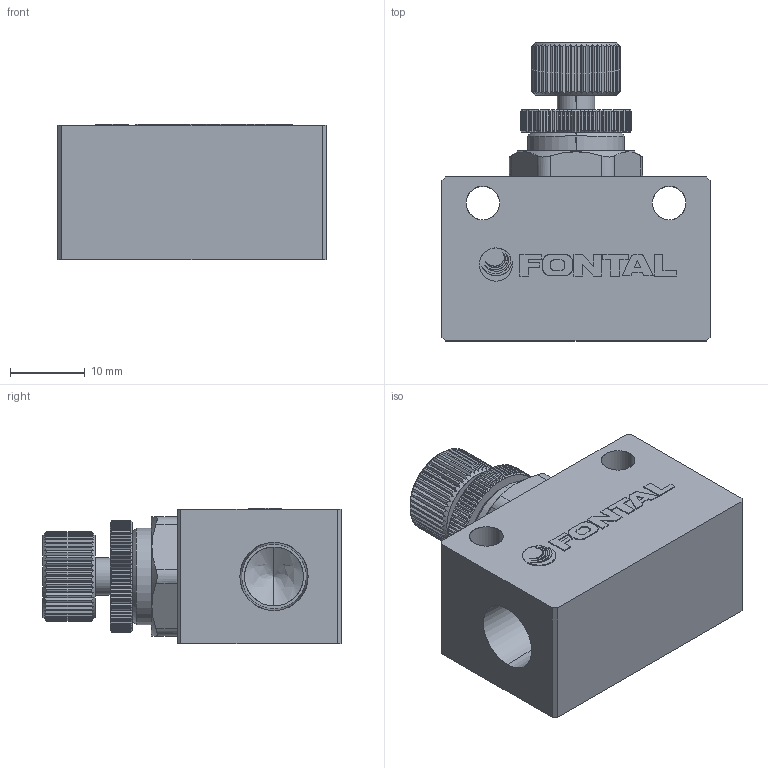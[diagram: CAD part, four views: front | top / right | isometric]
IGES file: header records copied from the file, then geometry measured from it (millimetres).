
Start section: SolidWorks IGES file using analytic representation for surfaces
Global section: file name: D:\Custom\3D繪製\Z-H\2H\SP-2H-1.IGS,1; native system: 5HSolidWorks 2014; preprocessor: SolidWorks 2014; author: Chieh_Lu; date: 160115.031941; units: millimetre
Bounding box: 36 x 40 x 18.12 mm (x, y, z)
Surface area: 6971.4 mm2 (no closed solid volume)
Topology: 0 solids, 0 shells, 722 faces, 4354 edges, 4350 vertices
Faces by surface type: bspline 367, revolution 355
